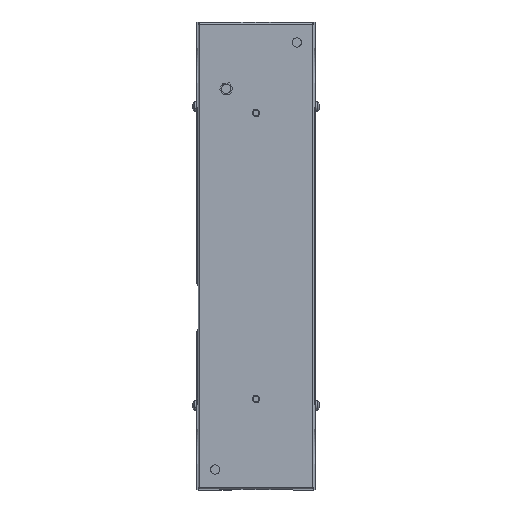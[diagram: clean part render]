
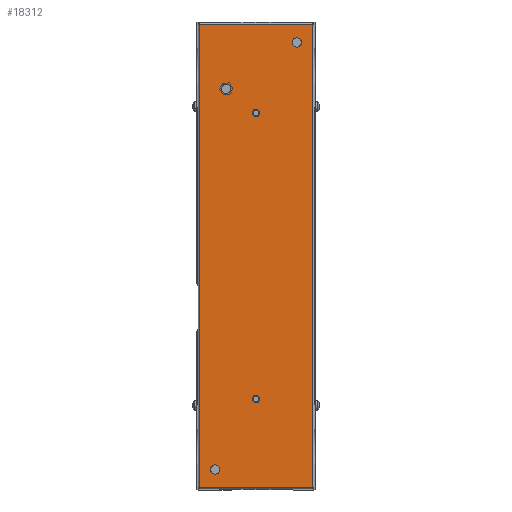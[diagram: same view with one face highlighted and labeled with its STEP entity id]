
A CAD part, front view. The second image highlights one B-rep face of the part: STEP entity #18312.
In plain terms, the highlighted planar face has unit normal (0, -1, 0).
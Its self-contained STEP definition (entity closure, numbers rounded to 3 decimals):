
#56 = AXIS2_PLACEMENT_3D ( 'NONE', #15285, #28812, #10390 ) ;
#475 = FACE_BOUND ( 'NONE', #33739, .T. ) ;
#721 = EDGE_CURVE ( 'NONE', #25558, #42647, #10597, .T. ) ;
#2062 = CARTESIAN_POINT ( 'NONE',  ( 30.55, -0.6, 124.8 ) ) ;
#2219 = CARTESIAN_POINT ( 'NONE',  ( 0., -0.6, -78.5 ) ) ;
#2563 = FACE_BOUND ( 'NONE', #33145, .T. ) ;
#2660 = VERTEX_POINT ( 'NONE', #19717 ) ;
#2669 = VERTEX_POINT ( 'NONE', #2219 ) ;
#2758 = VECTOR ( 'NONE', #32624, 1000. ) ;
#4019 = VERTEX_POINT ( 'NONE', #27861 ) ;
#4105 = VECTOR ( 'NONE', #5245, 1000. ) ;
#4921 = EDGE_CURVE ( 'NONE', #42647, #25558, #54465, .T. ) ;
#5245 = DIRECTION ( 'NONE',  ( 1., 0., 0. ) ) ;
#5250 = DIRECTION ( 'NONE',  ( 0., 1., 0. ) ) ;
#6302 = ORIENTED_EDGE ( 'NONE', *, *, #21145, .T. ) ;
#6907 = ORIENTED_EDGE ( 'NONE', *, *, #27820, .T. ) ;
#8088 = EDGE_CURVE ( 'NONE', #12459, #55912, #54416, .T. ) ;
#8205 = DIRECTION ( 'NONE',  ( 0., 0., 1. ) ) ;
#8819 = DIRECTION ( 'NONE',  ( 0., 0., 1. ) ) ;
#9393 = DIRECTION ( 'NONE',  ( 0., 0., 1. ) ) ;
#9454 = CIRCLE ( 'NONE', #10023, 2.5 ) ;
#10023 = AXIS2_PLACEMENT_3D ( 'NONE', #56051, #14934, #15522 ) ;
#10333 = CIRCLE ( 'NONE', #40616, 2.5 ) ;
#10390 = DIRECTION ( 'NONE',  ( 0., 0., 1. ) ) ;
#10597 = CIRCLE ( 'NONE', #39305, 2.5 ) ;
#11106 = VERTEX_POINT ( 'NONE', #46536 ) ;
#11466 = PLANE ( 'NONE',  #48274 ) ;
#11688 = CARTESIAN_POINT ( 'NONE',  ( -22., -0.6, -115. ) ) ;
#11931 = CARTESIAN_POINT ( 'NONE',  ( -16., -0.6, 92.5 ) ) ;
#12459 = VERTEX_POINT ( 'NONE', #51235 ) ;
#12528 = VERTEX_POINT ( 'NONE', #11931 ) ;
#14323 = CARTESIAN_POINT ( 'NONE',  ( -22., -0.6, -117.5 ) ) ;
#14934 = DIRECTION ( 'NONE',  ( 0., 1., 0. ) ) ;
#15285 = CARTESIAN_POINT ( 'NONE',  ( 22., -0.6, 115. ) ) ;
#15522 = DIRECTION ( 'NONE',  ( 0., 0., 1. ) ) ;
#15561 = EDGE_CURVE ( 'NONE', #58269, #4019, #49339, .T. ) ;
#16176 = DIRECTION ( 'NONE',  ( 0., 0., 1. ) ) ;
#16502 = DIRECTION ( 'NONE',  ( 0., 0., 1. ) ) ;
#16735 = ORIENTED_EDGE ( 'NONE', *, *, #23943, .T. ) ;
#16943 = DIRECTION ( 'NONE',  ( 0., 1., 0. ) ) ;
#16991 = AXIS2_PLACEMENT_3D ( 'NONE', #44964, #49508, #8819 ) ;
#17081 = CARTESIAN_POINT ( 'NONE',  ( -22., -0.6, -115. ) ) ;
#18048 = CARTESIAN_POINT ( 'NONE',  ( -30.55, -0.6, 125.4 ) ) ;
#18312 = ADVANCED_FACE ( 'NONE', ( #20157, #475, #49749, #39869, #2563, #27201 ), #11466, .F. ) ;
#18578 = CARTESIAN_POINT ( 'NONE',  ( 0., -0.6, 77. ) ) ;
#18594 = CIRCLE ( 'NONE', #29872, 2.5 ) ;
#19216 = EDGE_LOOP ( 'NONE', ( #6302, #6907 ) ) ;
#19324 = ORIENTED_EDGE ( 'NONE', *, *, #36823, .T. ) ;
#19717 = CARTESIAN_POINT ( 'NONE',  ( 30.55, -0.6, -124.8 ) ) ;
#20157 = FACE_BOUND ( 'NONE', #45464, .T. ) ;
#20504 = ORIENTED_EDGE ( 'NONE', *, *, #47931, .T. ) ;
#21145 = EDGE_CURVE ( 'NONE', #39186, #2669, #40834, .T. ) ;
#22118 = CARTESIAN_POINT ( 'NONE',  ( -30.55, -0.6, 124.8 ) ) ;
#23943 = EDGE_CURVE ( 'NONE', #35029, #12528, #10333, .T. ) ;
#25445 = ORIENTED_EDGE ( 'NONE', *, *, #8088, .T. ) ;
#25558 = VERTEX_POINT ( 'NONE', #25925 ) ;
#25887 = ORIENTED_EDGE ( 'NONE', *, *, #55961, .T. ) ;
#25925 = CARTESIAN_POINT ( 'NONE',  ( -22., -0.6, -112.5 ) ) ;
#27201 = FACE_OUTER_BOUND ( 'NONE', #48651, .T. ) ;
#27376 = DIRECTION ( 'NONE',  ( 0., 1., 0. ) ) ;
#27732 = CARTESIAN_POINT ( 'NONE',  ( 30.55, -0.6, -125.4 ) ) ;
#27820 = EDGE_CURVE ( 'NONE', #2669, #39186, #47220, .T. ) ;
#27861 = CARTESIAN_POINT ( 'NONE',  ( -30.55, -0.6, -124.8 ) ) ;
#28562 = CIRCLE ( 'NONE', #53960, 1.5 ) ;
#28812 = DIRECTION ( 'NONE',  ( 0., 1., 0. ) ) ;
#29872 = AXIS2_PLACEMENT_3D ( 'NONE', #32047, #27376, #55110 ) ;
#31327 = EDGE_CURVE ( 'NONE', #55912, #12459, #18594, .T. ) ;
#31785 = VECTOR ( 'NONE', #54604, 1000. ) ;
#32047 = CARTESIAN_POINT ( 'NONE',  ( 22., -0.6, 115. ) ) ;
#32624 = DIRECTION ( 'NONE',  ( 0., 0., 1. ) ) ;
#33145 = EDGE_LOOP ( 'NONE', ( #20504, #25887 ) ) ;
#33627 = LINE ( 'NONE', #27732, #2758 ) ;
#33739 = EDGE_LOOP ( 'NONE', ( #41200, #49802 ) ) ;
#33836 = CARTESIAN_POINT ( 'NONE',  ( 0., -0.6, -75.5 ) ) ;
#33945 = EDGE_LOOP ( 'NONE', ( #45437, #25445 ) ) ;
#34009 = DIRECTION ( 'NONE',  ( 0., 0., 1. ) ) ;
#34177 = CIRCLE ( 'NONE', #16991, 1.5 ) ;
#35029 = VERTEX_POINT ( 'NONE', #53244 ) ;
#35122 = VERTEX_POINT ( 'NONE', #35276 ) ;
#35276 = CARTESIAN_POINT ( 'NONE',  ( 0., -0.6, 78.5 ) ) ;
#36823 = EDGE_CURVE ( 'NONE', #4019, #2660, #47287, .T. ) ;
#36926 = VERTEX_POINT ( 'NONE', #2062 ) ;
#39186 = VERTEX_POINT ( 'NONE', #33836 ) ;
#39305 = AXIS2_PLACEMENT_3D ( 'NONE', #17081, #39503, #16502 ) ;
#39456 = VECTOR ( 'NONE', #55045, 1000. ) ;
#39503 = DIRECTION ( 'NONE',  ( 0., 1., 0. ) ) ;
#39761 = EDGE_CURVE ( 'NONE', #58269, #36926, #44194, .T. ) ;
#39869 = FACE_BOUND ( 'NONE', #19216, .T. ) ;
#40616 = AXIS2_PLACEMENT_3D ( 'NONE', #51764, #47444, #34009 ) ;
#40834 = CIRCLE ( 'NONE', #58201, 1.5 ) ;
#41200 = ORIENTED_EDGE ( 'NONE', *, *, #721, .T. ) ;
#42343 = EDGE_CURVE ( 'NONE', #12528, #35029, #9454, .T. ) ;
#42647 = VERTEX_POINT ( 'NONE', #14323 ) ;
#43133 = DIRECTION ( 'NONE',  ( 0., 1., 0. ) ) ;
#43473 = DIRECTION ( 'NONE',  ( 0., 1., 0. ) ) ;
#44194 = LINE ( 'NONE', #45538, #4105 ) ;
#44964 = CARTESIAN_POINT ( 'NONE',  ( 0., -0.6, 77. ) ) ;
#45332 = DIRECTION ( 'NONE',  ( 0., 1., 0. ) ) ;
#45437 = ORIENTED_EDGE ( 'NONE', *, *, #31327, .T. ) ;
#45464 = EDGE_LOOP ( 'NONE', ( #53507, #16735 ) ) ;
#45529 = CARTESIAN_POINT ( 'NONE',  ( 30.55, -0.6, -124.8 ) ) ;
#45538 = CARTESIAN_POINT ( 'NONE',  ( 0., -0.6, 124.8 ) ) ;
#46536 = CARTESIAN_POINT ( 'NONE',  ( 0., -0.6, 75.5 ) ) ;
#46644 = EDGE_CURVE ( 'NONE', #2660, #36926, #33627, .T. ) ;
#47220 = CIRCLE ( 'NONE', #53203, 1.5 ) ;
#47287 = LINE ( 'NONE', #45529, #31785 ) ;
#47444 = DIRECTION ( 'NONE',  ( 0., 1., 0. ) ) ;
#47788 = DIRECTION ( 'NONE',  ( 0., 0., 1. ) ) ;
#47931 = EDGE_CURVE ( 'NONE', #35122, #11106, #28562, .T. ) ;
#48274 = AXIS2_PLACEMENT_3D ( 'NONE', #52159, #16943, #58071 ) ;
#48651 = EDGE_LOOP ( 'NONE', ( #19324, #55921, #50614, #56166 ) ) ;
#49118 = CARTESIAN_POINT ( 'NONE',  ( 22., -0.6, 117.5 ) ) ;
#49339 = LINE ( 'NONE', #18048, #39456 ) ;
#49508 = DIRECTION ( 'NONE',  ( 0., 1., 0. ) ) ;
#49749 = FACE_BOUND ( 'NONE', #33945, .T. ) ;
#49802 = ORIENTED_EDGE ( 'NONE', *, *, #4921, .T. ) ;
#50614 = ORIENTED_EDGE ( 'NONE', *, *, #39761, .F. ) ;
#50750 = AXIS2_PLACEMENT_3D ( 'NONE', #11688, #43133, #16176 ) ;
#51235 = CARTESIAN_POINT ( 'NONE',  ( 22., -0.6, 112.5 ) ) ;
#51764 = CARTESIAN_POINT ( 'NONE',  ( -16., -0.6, 90. ) ) ;
#52159 = CARTESIAN_POINT ( 'NONE',  ( -31.2, -0.6, 125.4 ) ) ;
#52320 = CARTESIAN_POINT ( 'NONE',  ( 0., -0.6, -77. ) ) ;
#53203 = AXIS2_PLACEMENT_3D ( 'NONE', #54038, #5250, #9393 ) ;
#53244 = CARTESIAN_POINT ( 'NONE',  ( -16., -0.6, 87.5 ) ) ;
#53507 = ORIENTED_EDGE ( 'NONE', *, *, #42343, .T. ) ;
#53960 = AXIS2_PLACEMENT_3D ( 'NONE', #18578, #45332, #8205 ) ;
#54038 = CARTESIAN_POINT ( 'NONE',  ( 0., -0.6, -77. ) ) ;
#54416 = CIRCLE ( 'NONE', #56, 2.5 ) ;
#54465 = CIRCLE ( 'NONE', #50750, 2.5 ) ;
#54604 = DIRECTION ( 'NONE',  ( 1., 0., 0. ) ) ;
#55045 = DIRECTION ( 'NONE',  ( 0., 0., -1. ) ) ;
#55110 = DIRECTION ( 'NONE',  ( 0., 0., 1. ) ) ;
#55912 = VERTEX_POINT ( 'NONE', #49118 ) ;
#55921 = ORIENTED_EDGE ( 'NONE', *, *, #46644, .T. ) ;
#55961 = EDGE_CURVE ( 'NONE', #11106, #35122, #34177, .T. ) ;
#56051 = CARTESIAN_POINT ( 'NONE',  ( -16., -0.6, 90. ) ) ;
#56166 = ORIENTED_EDGE ( 'NONE', *, *, #15561, .T. ) ;
#58071 = DIRECTION ( 'NONE',  ( 0., 0., 1. ) ) ;
#58201 = AXIS2_PLACEMENT_3D ( 'NONE', #52320, #43473, #47788 ) ;
#58269 = VERTEX_POINT ( 'NONE', #22118 ) ;
